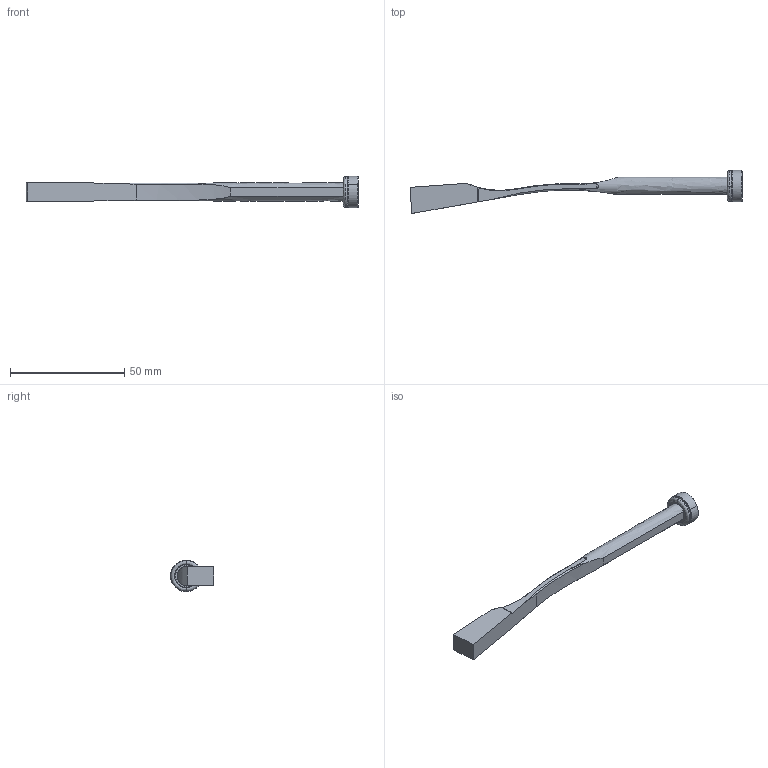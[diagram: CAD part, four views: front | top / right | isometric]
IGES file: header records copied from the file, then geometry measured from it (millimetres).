
Start section: START RECORD GO HERE.
Global section: file name: pw080825_ejection.igs; native system: DASSAULT SYSTEMES CATIA V5 R20 - www.3ds.com; preprocessor: CATIA Version 5 Release 20 ; author: Utente; organization: NB04-ASUS; date: 20201108.135205; units: millimetre
Bounding box: 145.51 x 18.87 x 13.8 mm (x, y, z)
Surface area: 5600.3 mm2 (no closed solid volume)
Topology: 0 solids, 0 shells, 90 faces, 402 edges, 398 vertices
Faces by surface type: revolution 58, plane 30, bspline 2
